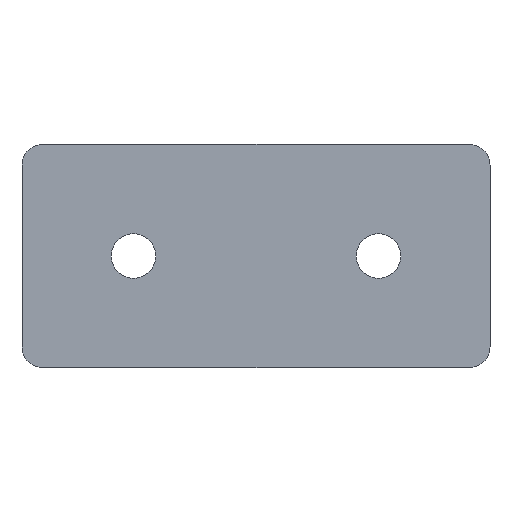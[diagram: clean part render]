
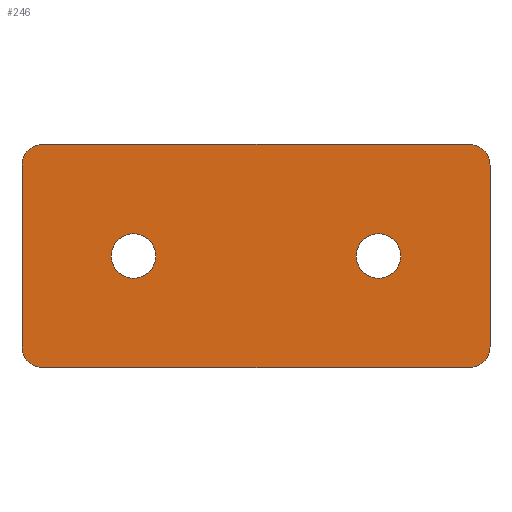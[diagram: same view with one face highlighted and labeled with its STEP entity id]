
A CAD part, front view. The second image highlights one B-rep face of the part: STEP entity #246.
In plain terms, the highlighted planar face has unit normal (0, -1, 0).
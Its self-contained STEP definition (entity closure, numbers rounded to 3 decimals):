
#2 = DIRECTION ( 'NONE',  ( 0., 0., -1. ) ) ;
#8 = DIRECTION ( 'NONE',  ( 0., 0., 1. ) ) ;
#10 = CARTESIAN_POINT ( 'NONE',  ( 52.635, 0., -7.635 ) ) ;
#19 = DIRECTION ( 'NONE',  ( 0., 0., 1. ) ) ;
#20 = VERTEX_POINT ( 'NONE', #226 ) ;
#29 = EDGE_CURVE ( 'NONE', #20, #30, #485, .T. ) ;
#30 = VERTEX_POINT ( 'NONE', #76 ) ;
#33 = VECTOR ( 'NONE', #394, 1000. ) ;
#40 = EDGE_CURVE ( 'NONE', #71, #83, #311, .T. ) ;
#41 = CARTESIAN_POINT ( 'NONE',  ( 73.135, 0., 9.081 ) ) ;
#49 = EDGE_CURVE ( 'NONE', #466, #253, #502, .T. ) ;
#51 = AXIS2_PLACEMENT_3D ( 'NONE', #458, #491, #8 ) ;
#56 = FACE_OUTER_BOUND ( 'NONE', #79, .T. ) ;
#67 = CARTESIAN_POINT ( 'NONE',  ( 7.635, 0., -7.635 ) ) ;
#68 = CIRCLE ( 'NONE', #156, 3.784 ) ;
#71 = VERTEX_POINT ( 'NONE', #274 ) ;
#76 = CARTESIAN_POINT ( 'NONE',  ( -12.865, 0., 9.081 ) ) ;
#78 = EDGE_CURVE ( 'NONE', #417, #263, #419, .T. ) ;
#79 = EDGE_LOOP ( 'NONE', ( #289, #234, #325, #295, #317, #176, #198, #213 ) ) ;
#83 = VERTEX_POINT ( 'NONE', #161 ) ;
#89 = AXIS2_PLACEMENT_3D ( 'NONE', #312, #521, #2 ) ;
#95 = AXIS2_PLACEMENT_3D ( 'NONE', #168, #368, #497 ) ;
#101 = EDGE_CURVE ( 'NONE', #185, #520, #249, .T. ) ;
#102 = DIRECTION ( 'NONE',  ( 0., 0., -1. ) ) ;
#119 = CARTESIAN_POINT ( 'NONE',  ( 69.351, 0., -24.351 ) ) ;
#123 = VECTOR ( 'NONE', #230, 1000. ) ;
#124 = VECTOR ( 'NONE', #258, 1000. ) ;
#128 = CARTESIAN_POINT ( 'NONE',  ( 52.635, 0., -3.535 ) ) ;
#130 = CARTESIAN_POINT ( 'NONE',  ( 73.135, 0., 9.081 ) ) ;
#135 = DIRECTION ( 'NONE',  ( 0., 0., 1. ) ) ;
#144 = ORIENTED_EDGE ( 'NONE', *, *, #335, .T. ) ;
#148 = VERTEX_POINT ( 'NONE', #41 ) ;
#150 = CIRCLE ( 'NONE', #500, 4.1 ) ;
#154 = CARTESIAN_POINT ( 'NONE',  ( -12.865, 0., -24.351 ) ) ;
#156 = AXIS2_PLACEMENT_3D ( 'NONE', #347, #450, #135 ) ;
#158 = DIRECTION ( 'NONE',  ( 0., 0., 1. ) ) ;
#161 = CARTESIAN_POINT ( 'NONE',  ( 69.351, 0., 12.865 ) ) ;
#162 = EDGE_CURVE ( 'NONE', #148, #466, #412, .T. ) ;
#168 = CARTESIAN_POINT ( 'NONE',  ( -9.081, 0., -24.351 ) ) ;
#169 = DIRECTION ( 'NONE',  ( 0., 0., -1. ) ) ;
#176 = ORIENTED_EDGE ( 'NONE', *, *, #162, .F. ) ;
#177 = CIRCLE ( 'NONE', #95, 3.784 ) ;
#185 = VERTEX_POINT ( 'NONE', #128 ) ;
#190 = EDGE_CURVE ( 'NONE', #424, #20, #177, .T. ) ;
#193 = FACE_BOUND ( 'NONE', #341, .T. ) ;
#196 = CARTESIAN_POINT ( 'NONE',  ( -9.081, 0., -28.135 ) ) ;
#198 = ORIENTED_EDGE ( 'NONE', *, *, #505, .F. ) ;
#213 = ORIENTED_EDGE ( 'NONE', *, *, #40, .F. ) ;
#224 = EDGE_LOOP ( 'NONE', ( #285, #506 ) ) ;
#225 = EDGE_CURVE ( 'NONE', #30, #71, #354, .T. ) ;
#226 = CARTESIAN_POINT ( 'NONE',  ( -12.865, 0., -24.351 ) ) ;
#230 = DIRECTION ( 'NONE',  ( 0., 0., -1. ) ) ;
#234 = ORIENTED_EDGE ( 'NONE', *, *, #29, .F. ) ;
#242 = CARTESIAN_POINT ( 'NONE',  ( 73.135, 0., -24.351 ) ) ;
#246 = ADVANCED_FACE ( 'NONE', ( #193, #287, #56 ), #277, .F. ) ;
#249 = CIRCLE ( 'NONE', #480, 4.1 ) ;
#253 = VERTEX_POINT ( 'NONE', #456 ) ;
#255 = DIRECTION ( 'NONE',  ( 0., 1., 0. ) ) ;
#258 = DIRECTION ( 'NONE',  ( 1., 0., 0. ) ) ;
#263 = VERTEX_POINT ( 'NONE', #467 ) ;
#270 = CARTESIAN_POINT ( 'NONE',  ( 52.635, 0., -7.635 ) ) ;
#274 = CARTESIAN_POINT ( 'NONE',  ( -9.081, 0., 12.865 ) ) ;
#277 = PLANE ( 'NONE',  #281 ) ;
#281 = AXIS2_PLACEMENT_3D ( 'NONE', #494, #255, #19 ) ;
#285 = ORIENTED_EDGE ( 'NONE', *, *, #101, .T. ) ;
#287 = FACE_BOUND ( 'NONE', #224, .T. ) ;
#289 = ORIENTED_EDGE ( 'NONE', *, *, #225, .F. ) ;
#295 = ORIENTED_EDGE ( 'NONE', *, *, #420, .F. ) ;
#302 = ORIENTED_EDGE ( 'NONE', *, *, #78, .T. ) ;
#307 = CARTESIAN_POINT ( 'NONE',  ( 52.635, 0., -11.735 ) ) ;
#310 = CARTESIAN_POINT ( 'NONE',  ( 69.351, 0., -28.135 ) ) ;
#311 = LINE ( 'NONE', #475, #124 ) ;
#312 = CARTESIAN_POINT ( 'NONE',  ( 7.635, 0., -7.635 ) ) ;
#313 = DIRECTION ( 'NONE',  ( 0., 0., -1. ) ) ;
#315 = DIRECTION ( 'NONE',  ( 0., 1., 0. ) ) ;
#317 = ORIENTED_EDGE ( 'NONE', *, *, #49, .F. ) ;
#324 = AXIS2_PLACEMENT_3D ( 'NONE', #119, #390, #158 ) ;
#325 = ORIENTED_EDGE ( 'NONE', *, *, #190, .F. ) ;
#333 = DIRECTION ( 'NONE',  ( 0., 1., 0. ) ) ;
#335 = EDGE_CURVE ( 'NONE', #263, #417, #396, .T. ) ;
#341 = EDGE_LOOP ( 'NONE', ( #302, #144 ) ) ;
#342 = VECTOR ( 'NONE', #429, 1000. ) ;
#347 = CARTESIAN_POINT ( 'NONE',  ( 69.351, 0., 9.081 ) ) ;
#354 = CIRCLE ( 'NONE', #51, 3.784 ) ;
#367 = DIRECTION ( 'NONE',  ( 0., 1., 0. ) ) ;
#368 = DIRECTION ( 'NONE',  ( 0., 1., 0. ) ) ;
#390 = DIRECTION ( 'NONE',  ( 0., 1., 0. ) ) ;
#394 = DIRECTION ( 'NONE',  ( -1., 0., 0. ) ) ;
#396 = CIRCLE ( 'NONE', #473, 4.1 ) ;
#412 = LINE ( 'NONE', #130, #123 ) ;
#417 = VERTEX_POINT ( 'NONE', #438 ) ;
#419 = CIRCLE ( 'NONE', #89, 4.1 ) ;
#420 = EDGE_CURVE ( 'NONE', #253, #424, #430, .T. ) ;
#424 = VERTEX_POINT ( 'NONE', #196 ) ;
#429 = DIRECTION ( 'NONE',  ( 0., 0., 1. ) ) ;
#430 = LINE ( 'NONE', #310, #33 ) ;
#438 = CARTESIAN_POINT ( 'NONE',  ( 7.635, 0., -3.535 ) ) ;
#450 = DIRECTION ( 'NONE',  ( 0., 1., 0. ) ) ;
#456 = CARTESIAN_POINT ( 'NONE',  ( 69.351, 0., -28.135 ) ) ;
#458 = CARTESIAN_POINT ( 'NONE',  ( -9.081, 0., 9.081 ) ) ;
#466 = VERTEX_POINT ( 'NONE', #242 ) ;
#467 = CARTESIAN_POINT ( 'NONE',  ( 7.635, 0., -11.735 ) ) ;
#473 = AXIS2_PLACEMENT_3D ( 'NONE', #67, #333, #102 ) ;
#475 = CARTESIAN_POINT ( 'NONE',  ( -9.081, 0., 12.865 ) ) ;
#480 = AXIS2_PLACEMENT_3D ( 'NONE', #270, #315, #313 ) ;
#485 = LINE ( 'NONE', #154, #342 ) ;
#488 = EDGE_CURVE ( 'NONE', #520, #185, #150, .T. ) ;
#491 = DIRECTION ( 'NONE',  ( 0., 1., 0. ) ) ;
#494 = CARTESIAN_POINT ( 'NONE',  ( -9.081, 0., 9.081 ) ) ;
#497 = DIRECTION ( 'NONE',  ( 0., 0., 1. ) ) ;
#500 = AXIS2_PLACEMENT_3D ( 'NONE', #10, #367, #169 ) ;
#502 = CIRCLE ( 'NONE', #324, 3.784 ) ;
#505 = EDGE_CURVE ( 'NONE', #83, #148, #68, .T. ) ;
#506 = ORIENTED_EDGE ( 'NONE', *, *, #488, .T. ) ;
#520 = VERTEX_POINT ( 'NONE', #307 ) ;
#521 = DIRECTION ( 'NONE',  ( 0., 1., 0. ) ) ;
